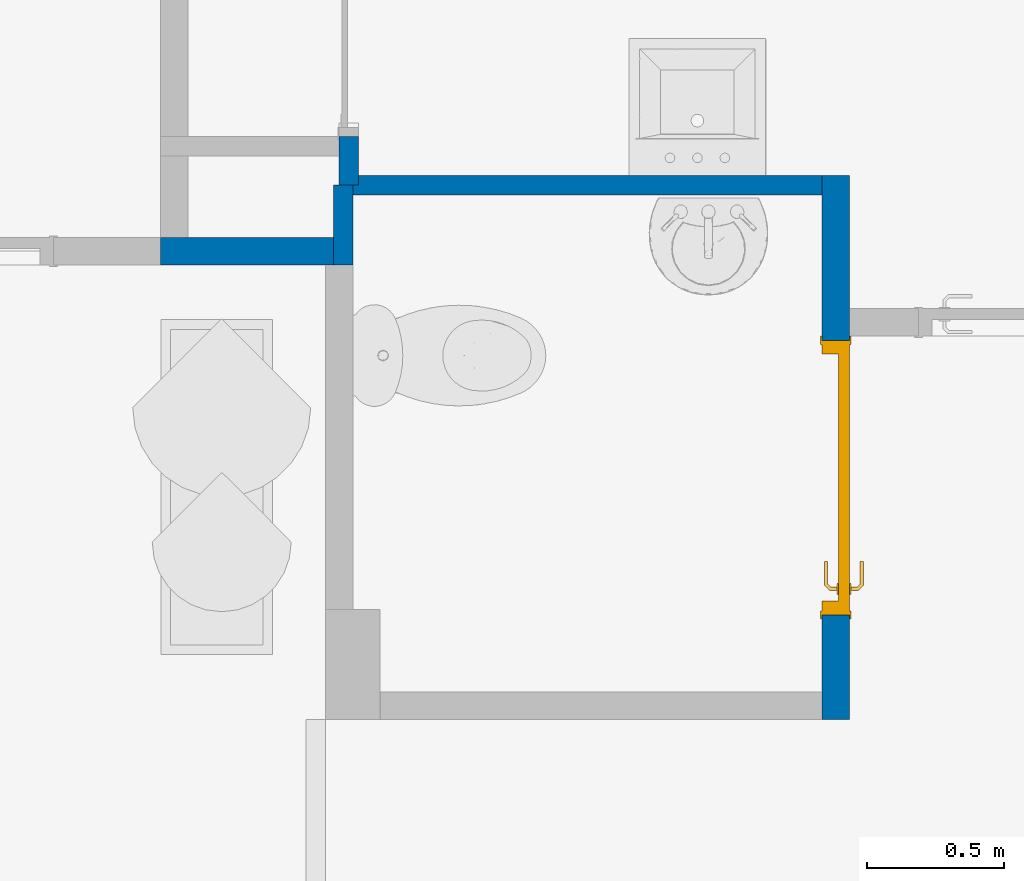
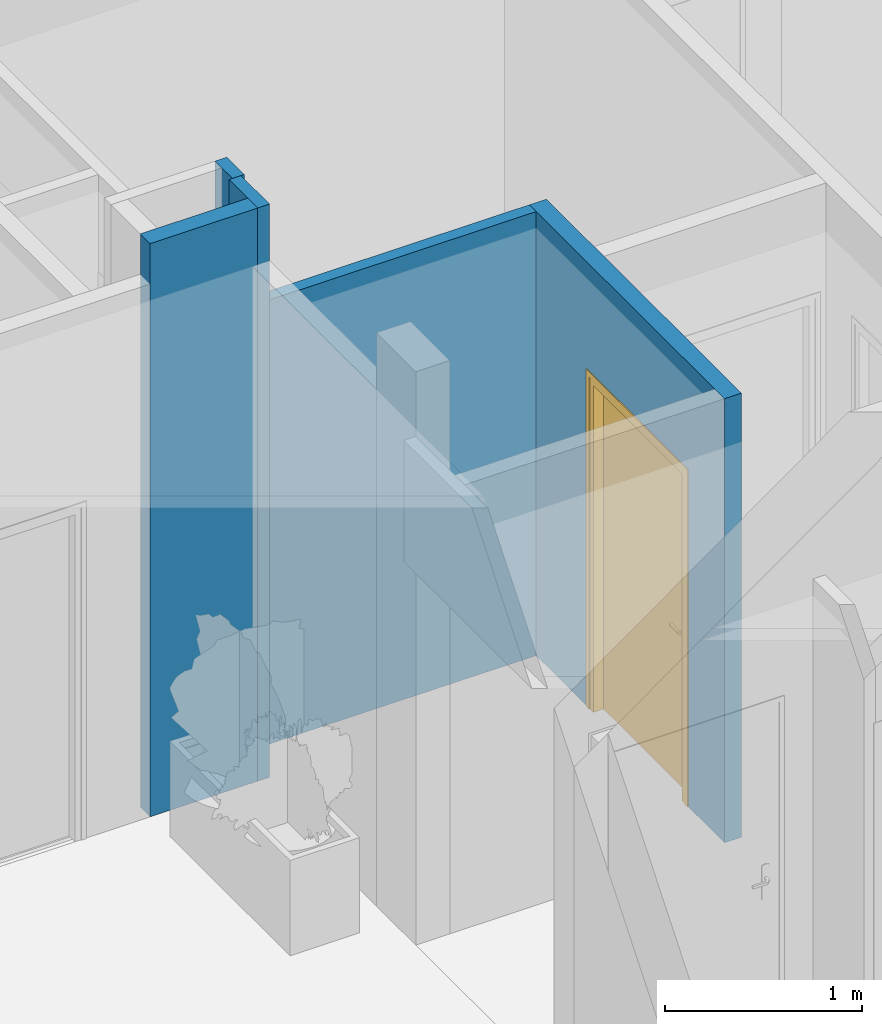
# One storey, part 16 of 32: 5 walls, 1 door, 1 opening.
"""IFC2X3 building model written with IfcOpenShell, lengths in metres."""

from ifc_helpers import new_model, entity, si_unit, converted_unit, derived_unit, direction, frame, frame_2d, origin, place, context, subcontext, project, spatial, polyline, circle_curve, parameter, trimmed, segment, composite_curve, rectangle, outline, extrude, faceted_brep, source, transform, mapped, material, material_list, layer, layer_set, layer_usage, type_object, type_shapes, element, fill, save


model = new_model("IFC2X3")

# Units and contexts
model_context = context("Model", 3, precision=1e-05, world=origin(), true_north=direction((6.12303176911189e-17, 1.0)))
plan_context = context("Plan", 3, precision=1e-05, world=origin(), true_north=direction((6.12303176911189e-17, 1.0)))
body_context = subcontext(model_context, "Body", "Model", "MODEL_VIEW")
ifc_project = project(units=[si_unit("LENGTHUNIT", "METRE"), si_unit("AREAUNIT", "SQUARE_METRE"), si_unit("VOLUMEUNIT", "CUBIC_METRE"), converted_unit("PLANEANGLEUNIT", "DEGREE", entity("IfcRatioMeasure", 0.0174532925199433), si_unit("PLANEANGLEUNIT", "RADIAN"), dimensions=[0, 0, 0, 0, 0, 0, 0]), si_unit("MASSUNIT", "GRAM", prefix="KILO"), derived_unit("MASSDENSITYUNIT", [(si_unit("MASSUNIT", "GRAM", prefix="KILO"), 1), (si_unit("LENGTHUNIT", "METRE"), -3)]), derived_unit("MOMENTOFINERTIAUNIT", [(si_unit("LENGTHUNIT", "METRE"), 4)]), si_unit("TIMEUNIT", "SECOND"), si_unit("FREQUENCYUNIT", "HERTZ"), si_unit("THERMODYNAMICTEMPERATUREUNIT", "DEGREE_CELSIUS"), derived_unit("THERMALTRANSMITTANCEUNIT", [(si_unit("MASSUNIT", "GRAM", prefix="KILO"), 1), (si_unit("THERMODYNAMICTEMPERATUREUNIT", "KELVIN"), -1), (si_unit("TIMEUNIT", "SECOND"), -3)]), derived_unit("VOLUMETRICFLOWRATEUNIT", [(si_unit("LENGTHUNIT", "METRE"), 3), (si_unit("TIMEUNIT", "SECOND"), -1)]), si_unit("ELECTRICCURRENTUNIT", "AMPERE"), si_unit("ELECTRICVOLTAGEUNIT", "VOLT"), si_unit("POWERUNIT", "WATT"), si_unit("FORCEUNIT", "NEWTON", prefix="KILO"), si_unit("ILLUMINANCEUNIT", "LUX"), si_unit("LUMINOUSFLUXUNIT", "LUMEN"), si_unit("LUMINOUSINTENSITYUNIT", "CANDELA"), derived_unit("USERDEFINED", [(si_unit("MASSUNIT", "GRAM", prefix="KILO"), -1), (si_unit("LENGTHUNIT", "METRE"), -2), (si_unit("TIMEUNIT", "SECOND"), 3), (si_unit("LUMINOUSFLUXUNIT", "LUMEN"), 1)]), derived_unit("LINEARVELOCITYUNIT", [(si_unit("LENGTHUNIT", "METRE"), 1), (si_unit("TIMEUNIT", "SECOND"), -1)]), si_unit("PRESSUREUNIT", "PASCAL"), derived_unit("USERDEFINED", [(si_unit("LENGTHUNIT", "METRE"), -2), (si_unit("MASSUNIT", "GRAM", prefix="KILO"), 1), (si_unit("TIMEUNIT", "SECOND"), -2)]), derived_unit("LINEARFORCEUNIT", [(si_unit("MASSUNIT", "GRAM", prefix="KILO"), 1), (si_unit("LENGTHUNIT", "METRE"), 1), (si_unit("TIMEUNIT", "SECOND"), -2), (si_unit("LENGTHUNIT", "METRE"), -1)]), derived_unit("PLANARFORCEUNIT", [(si_unit("MASSUNIT", "GRAM", prefix="KILO"), 1), (si_unit("LENGTHUNIT", "METRE"), 1), (si_unit("TIMEUNIT", "SECOND"), -2), (si_unit("LENGTHUNIT", "METRE"), -2)])], contexts=[model_context, plan_context])

# Site, building, storey
site_placement = place(None, origin())
site = spatial("IfcSite", under=ifc_project, at=site_placement, Name="Default", CompositionType="ELEMENT")
building_placement = place(site_placement, origin())
building = spatial("IfcBuilding", under=site, at=building_placement, CompositionType="ELEMENT")
storey_placement = place(building_placement, origin())
storey = spatial("IfcBuildingStorey", under=building, at=storey_placement, Name="0 Mairie RDC 0.00", CompositionType="ELEMENT", Elevation=-1.94916083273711e-14)

# Wall, opening, door
ifc_material_1 = material(Name="Plâtre")
ifc_layer_1 = layer(ifc_material_1, 0.0125)
ifc_layer_2 = layer(ifc_material_1, 0.0125)
ifc_material_2 = material(Name="Maçonnerie - Isolant")
ifc_layer_3 = layer(ifc_material_2, 0.05)
ifc_layer_4 = layer(ifc_material_1, 0.0125)
ifc_layer_5 = layer(ifc_material_1, 0.0125)
ifc_layer_set_1 = layer_set([ifc_layer_1, ifc_layer_2, ifc_layer_3, ifc_layer_4, ifc_layer_5], Name="Mur de base:A cloison placostil 98 sèche")
ifc_layer_usage_1 = layer_usage(ifc_layer_set_1, "AXIS2", "NEGATIVE", 0.05)
wall_type_1 = type_object("IfcWallType", Name="Murs : Mur de base : A cloison placostil 98 sèche", PredefinedType="STANDARD", material=ifc_layer_set_1)
wall_1_placement = place(storey_placement, frame((-3.0689176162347, -6.63378247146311, 0.0), z_axis=(0.0, 0.0, 1.0), x_axis=(0.0, 1.0, 0.0)))
wall_1 = element("IfcWallStandardCase", 1, at=wall_1_placement, inside=storey, type_object=wall_type_1, material=ifc_layer_usage_1, Name="Murs : Mur de base : A cloison placostil 98 sèche", ObjectType="Mur de base:A cloison placostil 98 sèche", context=body_context, shape_type="SweptSolid", body=[
    extrude(rectangle(XDim=1.98099563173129, YDim=0.1, at=frame_2d((0.990497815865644, 0.0), x_axis=(-1.0, 0.0))), origin(), (0.0, 0.0, 1.0), 2.75),
])
opening_placement = place(wall_1_placement, frame((1.38112910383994, 0.05, 0.0)))
opening = element("IfcOpeningElement", 2, at=opening_placement, cuts=wall_1, Name="Portes : Int. Simple : PP (0.89m x 2.04m):1", ObjectType="Opening", context=body_context, shape_type="SweptSolid", body=[
    extrude(rectangle(XDim=2.075, YDim=0.999999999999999, at=frame_2d((1.0375, 0.5), x_axis=(1.0, 0.0))), frame((0.0, 0.0, 0.0), z_axis=(0.0, -1.0, 0.0), x_axis=(0.0, 0.0, 1.0)), (0.0, 0.0, 1.0), 0.1),
])
ifc_material_3 = material(Name="Finition Peinture - Blanc satiné")
ifc_material_4 = material(Name="Bois - Cadre de porte")
ifc_material_list_1 = material_list([ifc_material_3, ifc_material_4])
ifc_material_5 = material(Name="Bois - Panneau de porte")
ifc_material_list_2 = material_list([ifc_material_5, ifc_material_4, ifc_material_3])
door_style = type_object("IfcDoorStyle", Name="Portes : Int. Simple : PP (0.89m x 2.04m)", ConstructionType="NOTDEFINED", OperationType="NOTDEFINED", ParameterTakesPrecedence=False, Sizeable=False, material=ifc_material_list_2)
shared_shape = source(origin(), body_context, "Body", "SolidModel", [
    extrude(outline(composite_curve([segment(polyline([(-0.104999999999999, -0.0199999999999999), (0.104999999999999, -0.0199999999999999)]), True, "CONTINUOUS"), segment(trimmed(circle_curve(frame_2d((0.0703589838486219, 0.0), x_axis=(0.0, 1.0)), 0.0399999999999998), [parameter(240.000000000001)], [parameter(300.0)], True, "PARAMETER"), True, "CONTINUOUS"), segment(polyline([(0.104999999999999, 0.0199999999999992), (-0.105, 0.020000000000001)]), True, "CONTINUOUS"), segment(trimmed(circle_curve(frame_2d((-0.0703589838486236, 0.0), x_axis=(0.0, 1.0)), 0.0399999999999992), [parameter(59.9999999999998)], [parameter(120.0)], True, "PARAMETER"), True, "CONTINUOUS")], self_intersect=False)), frame((0.0949999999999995, -0.00500000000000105, 0.975000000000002), z_axis=(0.0, 1.0, 0.0), x_axis=(0.0, 0.0, 1.0)), (0.0, 0.0, 1.0), 0.005),
    extrude(outline(composite_curve([segment(polyline([(-0.105, -0.0200000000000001), (0.105, -0.0200000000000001)]), True, "CONTINUOUS"), segment(trimmed(circle_curve(frame_2d((0.0703589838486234, 0.0), x_axis=(0.0, -1.0)), 0.0399999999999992), [parameter(59.9999999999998)], [parameter(120.0)], True, "PARAMETER"), True, "CONTINUOUS"), segment(polyline([(0.104999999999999, 0.0200000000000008), (-0.105, 0.0199999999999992)]), True, "CONTINUOUS"), segment(trimmed(circle_curve(frame_2d((-0.0703589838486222, 0.0), x_axis=(0.0, -1.0)), 0.0399999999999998), [parameter(240.0)], [parameter(300.0)], True, "PARAMETER"), True, "CONTINUOUS")], self_intersect=False)), frame((0.0949999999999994, 0.0399999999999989, 0.975000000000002), z_axis=(0.0, 1.0, 0.0), x_axis=(0.0, 0.0, -1.0)), (0.0, 0.0, 1.0), 0.00500000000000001),
    extrude(rectangle(XDim=0.04, YDim=0.93, at=frame_2d((3.46944695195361e-18, 0.0), x_axis=(1.0, 0.0))), frame((0.5, 0.02, 0.0), z_axis=(0.0, 0.0, 1.0), x_axis=(0.0, -1.0, 0.0)), (0.0, 0.0, 1.0), 2.04),
    extrude(outline(polyline([(-1.03750000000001, -0.514999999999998), (1.0525, -0.514999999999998), (1.0525, 0.514999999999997), (-1.0375, 0.514999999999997), (-1.03750000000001, 0.484999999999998), (1.02250000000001, 0.484999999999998), (1.02250000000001, -0.484999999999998), (-1.03750000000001, -0.484999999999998), (-1.03750000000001, -0.514999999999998)])), frame((0.499999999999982, 0.100000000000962, 1.03750000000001), z_axis=(0.0, 1.0, 0.0), x_axis=(0.0, 0.0, 1.0)), (0.0, 0.0, 1.0), 0.00500000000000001),
    extrude(outline(polyline([(-1.03750000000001, -0.514999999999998), (1.0525, -0.514999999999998), (1.0525, 0.514999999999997), (-1.0375, 0.514999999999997), (-1.03750000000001, 0.484999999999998), (1.02250000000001, 0.484999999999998), (1.02250000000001, -0.484999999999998), (-1.03750000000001, -0.484999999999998), (-1.03750000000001, -0.514999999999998)])), frame((0.499999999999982, -0.00500000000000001, 1.03750000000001), z_axis=(0.0, 1.0, 0.0), x_axis=(0.0, 0.0, 1.0)), (0.0, 0.0, 1.0), 0.005),
    faceted_brep([(0.0929747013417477, -0.00500000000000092, 1.00778044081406), (0.097025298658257, -0.0050000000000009, 1.00778044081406), (0.101000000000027, -0.00500000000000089, 1.00699999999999), (0.101000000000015, -0.00500000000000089, 0.993000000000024), (0.0970252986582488, -0.0050000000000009, 0.992219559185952), (0.0929747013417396, -0.00500000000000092, 0.99221955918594), (0.0889999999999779, -0.00500000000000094, 0.992999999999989), (0.0889999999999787, -0.00500000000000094, 1.007), (0.0889999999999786, -0.0326509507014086, 1.007), (0.0929747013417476, -0.0310045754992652, 1.00778044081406), (0.109023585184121, -0.0470534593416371, 1.00778044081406), (0.110701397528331, -0.0430028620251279, 1.00778044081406), (0.0970252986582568, -0.0293267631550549, 1.00778044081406), (0.101000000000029, -0.0276803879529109, 1.007), (0.101000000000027, -0.0276803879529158, 0.993000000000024), (0.0970252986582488, -0.0293267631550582, 0.992219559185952), (0.110701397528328, -0.0430028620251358, 0.992219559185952), (0.109023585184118, -0.0470534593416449, 0.99221955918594), (0.0929747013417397, -0.0310045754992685, 0.99221955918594), (0.0889999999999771, -0.0326509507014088, 0.992999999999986), (0.107377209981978, -0.0510281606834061, 1.007), (0.112347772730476, -0.0390281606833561, 1.007), (0.112347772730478, -0.0390281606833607, 0.993000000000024), (0.107377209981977, -0.0510281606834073, 0.992999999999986), (0.195018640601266, -0.051028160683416, 0.992999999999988), (0.195018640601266, -0.0470534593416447, 0.99221955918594), (0.195018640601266, -0.0430028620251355, 0.992219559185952), (0.195018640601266, -0.0390281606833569, 0.993000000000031), (0.195018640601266, -0.0390281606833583, 1.007), (0.195018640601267, -0.0430028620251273, 1.00778044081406), (0.195018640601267, -0.0470534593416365, 1.00778044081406), (0.195018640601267, -0.0510281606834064, 1.00699999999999), (0.147307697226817, -0.0510281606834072, 1.007), (0.152860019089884, -0.045028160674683, 1.0078786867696), (0.15368320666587, -0.039028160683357, 1.007), (0.153683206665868, -0.0390281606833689, 0.993000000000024), (0.152860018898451, -0.0450281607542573, 0.992121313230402), (0.147307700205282, -0.0510281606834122, 0.992999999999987)], [[[0, 1, 2, 3, 4, 5, 6, 7]], [[8, 9, 0, 7]], [[9, 10, 11, 12, 1, 0]], [[12, 13, 2, 1]], [[3, 2, 13, 14]], [[14, 15, 4, 3]], [[15, 16, 17, 18, 5, 4]], [[18, 19, 6, 5]], [[7, 6, 19, 8]], [[20, 10, 9, 8]], [[11, 21, 13, 12]], [[14, 13, 21, 22]], [[22, 16, 15, 14]], [[17, 23, 19, 18]], [[8, 19, 23, 20]], [[24, 25, 26, 27, 28, 29, 30, 31]], [[32, 30, 33]], [[31, 30, 32]], [[10, 20, 32]], [[33, 34, 11]], [[21, 11, 34]], [[34, 29, 28]], [[30, 29, 33]], [[29, 34, 33]], [[10, 32, 33]], [[10, 33, 11]], [[22, 21, 34, 28, 27, 35]], [[35, 26, 36]], [[37, 36, 25]], [[22, 35, 16]], [[35, 27, 26]], [[24, 37, 25]], [[23, 17, 37]], [[37, 17, 36]], [[17, 16, 36]], [[16, 35, 36]], [[25, 36, 26]], [[20, 23, 37, 24, 31, 32]]]),
    faceted_brep([(0.092974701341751, 0.0449999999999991, 1.00778044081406), (0.0889999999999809, 0.044999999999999, 1.007), (0.0889999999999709, 0.044999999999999, 0.992999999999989), (0.0929747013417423, 0.0449999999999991, 0.99221955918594), (0.0970252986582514, 0.0449999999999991, 0.992219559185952), (0.10100000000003, 0.0449999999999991, 0.993000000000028), (0.101000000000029, 0.0449999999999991, 1.007), (0.0970252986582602, 0.0449999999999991, 1.00778044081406), (0.10100000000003, 0.067485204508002, 0.993000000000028), (0.10100000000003, 0.0674852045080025, 1.007), (0.0970252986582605, 0.0691315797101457, 1.00778044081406), (0.110838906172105, 0.0829451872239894, 1.00778044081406), (0.109161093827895, 0.0869957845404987, 1.00778044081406), (0.0929747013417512, 0.070809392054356, 1.00778044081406), (0.088999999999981, 0.0724557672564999, 1.007), (0.0889999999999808, 0.072455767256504, 0.992999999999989), (0.092974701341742, 0.0708093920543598, 0.99221955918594), (0.109161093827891, 0.0869957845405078, 0.99221955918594), (0.110838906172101, 0.0829451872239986, 0.992219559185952), (0.0970252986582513, 0.0691315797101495, 0.992219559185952), (0.112485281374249, 0.0789704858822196, 0.993000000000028), (0.112485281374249, 0.0789704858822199, 1.007), (0.107514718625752, 0.0909704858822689, 1.007), (0.107514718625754, 0.090970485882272, 0.992999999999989), (0.195045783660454, 0.0789704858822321, 0.993000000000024), (0.195045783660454, 0.0829451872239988, 0.992219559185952), (0.195045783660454, 0.086995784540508, 0.99221955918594), (0.195045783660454, 0.0909704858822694, 0.992999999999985), (0.195045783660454, 0.0909704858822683, 1.007), (0.195045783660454, 0.0869957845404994, 1.00778044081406), (0.195045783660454, 0.0829451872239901, 1.00778044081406), (0.195045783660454, 0.0789704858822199, 1.007), (0.153765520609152, 0.0789704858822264, 0.993000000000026), (0.153765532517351, 0.0789704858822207, 1.007), (0.152942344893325, 0.0849704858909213, 1.0078786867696), (0.147445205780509, 0.0909704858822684, 1.007), (0.147445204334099, 0.0909704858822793, 0.992999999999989), (0.152942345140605, 0.0849704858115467, 0.992121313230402)], [[[0, 1, 2, 3, 4, 5, 6, 7]], [[6, 5, 8, 9]], [[9, 10, 7, 6]], [[10, 11, 12, 13, 0, 7]], [[13, 14, 1, 0]], [[2, 1, 14, 15]], [[15, 16, 3, 2]], [[16, 17, 18, 19, 4, 3]], [[19, 8, 5, 4]], [[9, 8, 20, 21]], [[21, 11, 10, 9]], [[12, 22, 14, 13]], [[15, 14, 22, 23]], [[23, 17, 16, 15]], [[18, 20, 8, 19]], [[24, 25, 26, 27, 28, 29, 30, 31]], [[21, 20, 32, 24, 31, 33]], [[33, 30, 34]], [[35, 34, 29]], [[21, 33, 11]], [[33, 31, 30]], [[28, 35, 29]], [[22, 12, 35]], [[35, 12, 34]], [[12, 11, 34]], [[11, 33, 34]], [[29, 34, 30]], [[22, 35, 28, 27, 36, 23]], [[36, 26, 37]], [[27, 26, 36]], [[17, 23, 36]], [[37, 32, 18]], [[20, 18, 32]], [[32, 25, 24]], [[26, 25, 37]], [[25, 32, 37]], [[17, 36, 37]], [[17, 37, 18]]]),
    faceted_brep([(0.0, 0.0, 0.0), (0.0, 0.100000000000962, 0.0), (0.0499999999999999, 0.100000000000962, 0.0), (0.0499999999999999, 0.040000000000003, 0.0), (0.0349999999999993, 0.040000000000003, 0.0), (0.0349999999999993, 0.0, 0.0), (0.0, 0.0, 2.07500000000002), (0.0, 0.100000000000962, 2.07500000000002), (1.0, 0.100000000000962, 2.07500000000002), (1.0, 0.100000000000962, 0.0), (0.95, 0.100000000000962, 0.0), (0.95, 0.100000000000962, 2.025), (0.05, 0.100000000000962, 2.025), (0.05, 0.040000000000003, 2.025), (0.95, 0.040000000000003, 2.025), (0.95, 0.040000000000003, 0.0), (0.965, 0.040000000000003, 0.0), (0.965, 0.040000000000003, 2.04), (0.0349999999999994, 0.040000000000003, 2.04), (0.0349999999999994, 0.0, 2.04), (0.965, 0.0, 2.04), (0.965, 0.0, 0.0), (1.0, 0.0, 0.0), (1.0, 0.0, 2.07500000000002)], [[[0, 1, 2, 3, 4, 5]], [[1, 0, 6, 7]], [[2, 1, 7, 8, 9, 10, 11, 12]], [[3, 2, 12, 13]], [[4, 3, 13, 14, 15, 16, 17, 18]], [[5, 4, 18, 19]], [[0, 5, 19, 20, 21, 22, 23, 6]], [[8, 23, 22, 9]], [[22, 21, 16, 15, 10, 9]], [[14, 11, 10, 15]], [[20, 17, 16, 21]], [[7, 6, 23, 8]], [[13, 12, 11, 14]], [[19, 18, 17, 20]]]),
])
type_shapes(door_style, [shared_shape])
door_placement = place(opening_placement, frame((-1.0, -0.0999999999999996, 0.0)))
door = element("IfcDoor", 3, at=door_placement, inside=storey, type_object=door_style, material=ifc_material_list_1, Name="Portes : Int. Simple : PP (0.89m x 2.04m)", ObjectType="Int. Simple:PP (0.89m x 2.04m)", OverallHeight=2.075, OverallWidth=1.0, context=body_context, shape_type="MappedRepresentation", body=[
    mapped(shared_shape, transform((0.0, 0.0, 0.0), scale=1.0)),
])
fill(opening, door)

# Walls
ifc_layer_usage_2 = layer_usage(ifc_layer_set_1, "AXIS2", "POSITIVE", -0.05)
wall_2_placement = place(storey_placement, frame((-5.52749670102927, -4.92821541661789, 0.0)))
element("IfcWallStandardCase", 4, at=wall_2_placement, inside=storey, type_object=wall_type_1, material=ifc_layer_usage_2, Name="Murs : Mur de base : A cloison placostil 98 sèche", ObjectType="Mur de base:A cloison placostil 98 sèche", context=body_context, shape_type="SweptSolid", body=[
    extrude(rectangle(XDim=0.629999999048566, YDim=0.100000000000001, at=frame_2d((0.314999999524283, 0.0), x_axis=(-1.0, 0.0))), origin(), (0.0, 0.0, 1.0), 3.55),
])
ifc_layer_6 = layer(ifc_material_1, 0.01)
ifc_layer_7 = layer(ifc_material_2, 0.05)
ifc_layer_8 = layer(ifc_material_1, 0.01)
ifc_layer_set_2 = layer_set([ifc_layer_6, ifc_layer_7, ifc_layer_8], Name="Mur de base:A cloison placostil 72 sèche")
ifc_layer_usage_3 = layer_usage(ifc_layer_set_2, "AXIS2", "NEGATIVE", 0.035)
wall_type_2 = type_object("IfcWallType", Name="Murs : Mur de base : A cloison placostil 72 sèche", PredefinedType="STANDARD", material=ifc_layer_set_2)
wall_3_placement = place(storey_placement, frame((-4.8274967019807, -4.68778683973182, 0.0)))
element("IfcWallStandardCase", 5, at=wall_3_placement, inside=storey, type_object=wall_type_2, material=ifc_layer_usage_3, Name="Murs : Mur de base : A cloison placostil 72 sèche", ObjectType="Mur de base:A cloison placostil 72 sèche", context=body_context, shape_type="SweptSolid", body=[
    extrude(outline(polyline([(1.70857908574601, -0.0349999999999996), (1.70857908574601, 0.0350000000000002), (0.0199999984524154, 0.0350000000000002), (0.0199999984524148, 0.0), (0.0, 0.0), (0.0, -0.0349999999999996), (1.70857908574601, -0.0349999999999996)])), origin(), (0.0, 0.0, 1.0), 2.75),
])
ifc_layer_usage_4 = layer_usage(ifc_layer_set_2, "AXIS2", "NEGATIVE", 0.035)
wall_4_placement = place(storey_placement, frame((-4.8624967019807, -4.97821541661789, 0.0), z_axis=(0.0, 0.0, 1.0), x_axis=(0.0, 1.0, 0.0)))
element("IfcWallStandardCase", 6, at=wall_4_placement, inside=storey, type_object=wall_type_2, material=ifc_layer_usage_4, Name="Murs : Mur de base : A cloison placostil 72 sèche", ObjectType="Mur de base:A cloison placostil 72 sèche", context=body_context, shape_type="SweptSolid", body=[
    extrude(rectangle(XDim=0.290428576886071, YDim=0.0699999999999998, at=frame_2d((0.145214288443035, -2.70616862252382e-16), x_axis=(-1.0, 0.0))), origin(), (0.0, 0.0, 1.0), 3.55),
])
ifc_layer_usage_5 = layer_usage(ifc_layer_set_2, "AXIS2", "NEGATIVE", 0.035)
wall_5_placement = place(storey_placement, frame((-4.84249670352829, -4.51080577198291, 0.0), z_axis=(0.0, 0.0, 1.0), x_axis=(0.0, -1.0, 0.0)))
element("IfcWallStandardCase", 7, at=wall_5_placement, inside=storey, type_object=wall_type_2, material=ifc_layer_usage_5, Name="Murs : Mur de base : A cloison placostil 72 sèche", ObjectType="Mur de base:A cloison placostil 72 sèche", context=body_context, shape_type="SweptSolid", body=[
    extrude(rectangle(XDim=0.176981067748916, YDim=0.0700000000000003, at=frame_2d((0.0884905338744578, 0.0), x_axis=(-1.0, 0.0))), origin(), (0.0, 0.0, 1.0), 3.55),
])

save(model, "model.ifc")
